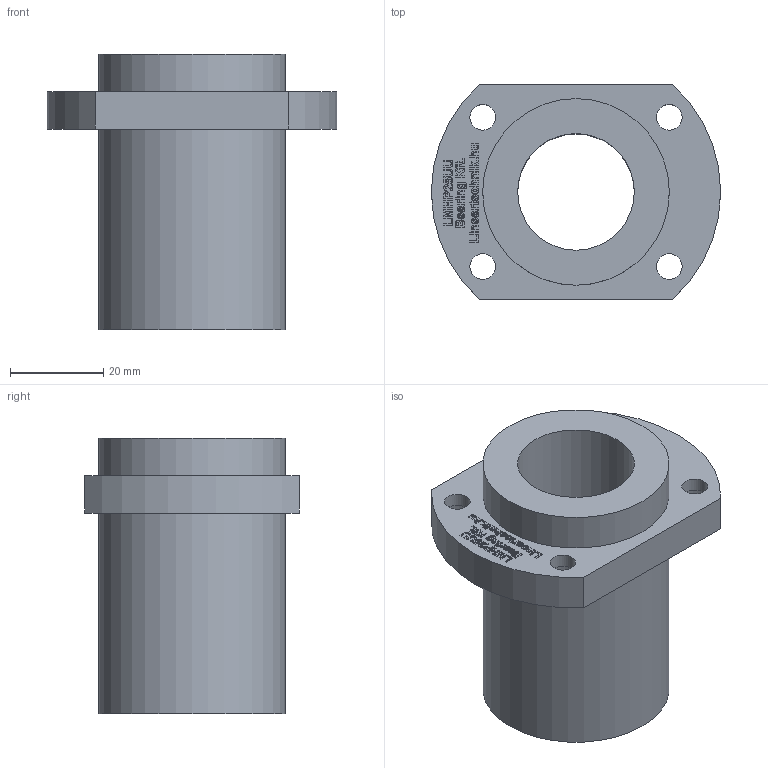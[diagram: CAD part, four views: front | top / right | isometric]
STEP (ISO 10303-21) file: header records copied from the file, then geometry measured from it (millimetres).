
FILE_DESCRIPTION(/* description */ (''),/* implementation_level */ '2;1');
FILE_NAME(/* name */ 'LMHP25UU',/* time_stamp */ '2019-07-09T13:43:10+02:00',/* author */ ('VĂ©gh MĂˇtĂ©'),/* organization */ ('Bearing Kft'),/* preprocessor_version */ 'ST-DEVELOPER v16.7',/* originating_system */ 'DEX',/* authorisation */ $);
FILE_SCHEMA (('AUTOMOTIVE_DESIGN {1 0 10303 214 3 1 1}'));
Length unit declared in the file: millimetre
Products named in the file (1): LMHP25UU
Bounding box: 62 x 46 x 59 mm (x, y, z)
Volume: 54051.4 mm3; surface area: 17293.3 mm2
Topology: 1 solids, 1 shells, 336 faces, 847 edges, 566 vertices
Faces by surface type: plane 260, bspline 61, cylinder 15
Full cylindrical faces by diameter (mm): 5.5 x4, 9 x4, 25 x1, 40 x2
Entity records: 13001 total; most frequent: CARTESIAN_POINT 5311, ORIENTED_EDGE 1662, DIRECTION 1291, EDGE_CURVE 831, LINE 679, VECTOR 679, VERTEX_POINT 562, EDGE_LOOP 411
